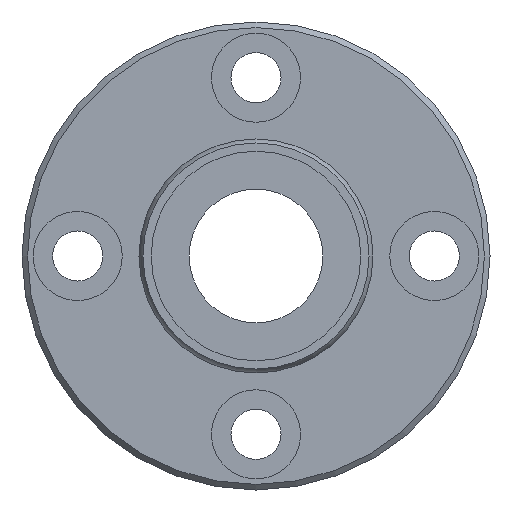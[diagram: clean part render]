
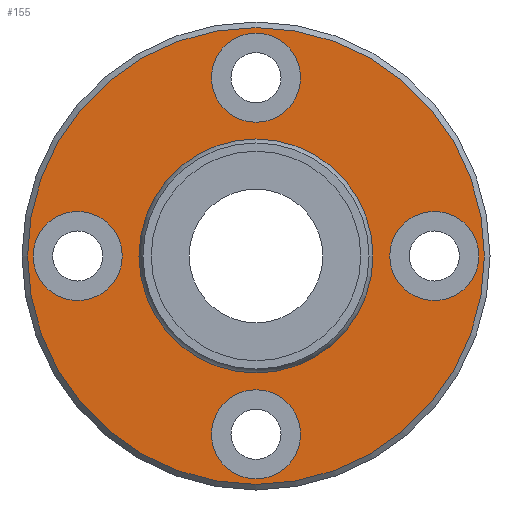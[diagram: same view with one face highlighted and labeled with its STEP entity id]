
A CAD part, left-side view. The second image highlights one B-rep face of the part: STEP entity #155.
In plain terms, the highlighted planar face has unit normal (-1, 0, 0).
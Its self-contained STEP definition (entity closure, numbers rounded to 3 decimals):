
#60=CARTESIAN_POINT('',(25.5,0.,20.5));
#61=VERTEX_POINT('',#60);
#62=CARTESIAN_POINT('',(25.5,0.0,0.0));
#63=DIRECTION('',(1.0,0.0,0.0));
#64=DIRECTION('',(0.0,0.0,-1.0));
#65=AXIS2_PLACEMENT_3D('',#62,#63,#64);
#66=CIRCLE('',#65,20.5);
#67=EDGE_CURVE('',#61,#61,#66,.T.);
#92=CARTESIAN_POINT('',(25.5,0.0,15.643));
#93=DIRECTION('',(-1.0,0.0,0.0));
#94=DIRECTION('',(0.0,0.0,1.0));
#95=AXIS2_PLACEMENT_3D('',#92,#93,#94);
#96=PLANE('',#95);
#97=ORIENTED_EDGE('',*,*,#67,.F.);
#98=EDGE_LOOP('',(#97));
#99=FACE_OUTER_BOUND('',#98,.T.);
#100=CARTESIAN_POINT('',(25.5,0.0,10.286));
#101=VERTEX_POINT('',#100);
#102=CARTESIAN_POINT('',(25.5,0.0,0.0));
#103=DIRECTION('',(-1.0,0.0,0.0));
#104=DIRECTION('',(0.0,0.0,1.0));
#105=AXIS2_PLACEMENT_3D('',#102,#103,#104);
#106=CIRCLE('',#105,10.286);
#107=EDGE_CURVE('',#101,#101,#106,.T.);
#108=ORIENTED_EDGE('',*,*,#107,.F.);
#109=EDGE_LOOP('',(#108));
#110=FACE_BOUND('',#109,.T.);
#111=CARTESIAN_POINT('',(25.5,-12.,0.));
#112=VERTEX_POINT('',#111);
#113=CARTESIAN_POINT('',(25.5,-16.0,0.));
#114=DIRECTION('',(1.0,0.0,0.0));
#115=DIRECTION('',(0.0,1.0,0.0));
#116=AXIS2_PLACEMENT_3D('',#113,#114,#115);
#117=CIRCLE('',#116,4.0);
#118=EDGE_CURVE('',#112,#112,#117,.T.);
#119=ORIENTED_EDGE('',*,*,#118,.T.);
#120=EDGE_LOOP('',(#119));
#121=FACE_BOUND('',#120,.T.);
#122=CARTESIAN_POINT('',(25.5,20.0,0.));
#123=VERTEX_POINT('',#122);
#124=CARTESIAN_POINT('',(25.5,16.0,0.));
#125=DIRECTION('',(1.0,0.0,0.0));
#126=DIRECTION('',(0.0,1.0,0.0));
#127=AXIS2_PLACEMENT_3D('',#124,#125,#126);
#128=CIRCLE('',#127,4.0);
#129=EDGE_CURVE('',#123,#123,#128,.T.);
#130=ORIENTED_EDGE('',*,*,#129,.T.);
#131=EDGE_LOOP('',(#130));
#132=FACE_BOUND('',#131,.T.);
#133=CARTESIAN_POINT('',(25.5,4.,16.0));
#134=VERTEX_POINT('',#133);
#135=CARTESIAN_POINT('',(25.5,0.,16.0));
#136=DIRECTION('',(1.0,0.0,0.0));
#137=DIRECTION('',(0.0,1.0,0.0));
#138=AXIS2_PLACEMENT_3D('',#135,#136,#137);
#139=CIRCLE('',#138,4.0);
#140=EDGE_CURVE('',#134,#134,#139,.T.);
#141=ORIENTED_EDGE('',*,*,#140,.T.);
#142=EDGE_LOOP('',(#141));
#143=FACE_BOUND('',#142,.T.);
#144=CARTESIAN_POINT('',(25.5,4.,-16.0));
#145=VERTEX_POINT('',#144);
#146=CARTESIAN_POINT('',(25.5,0.,-16.0));
#147=DIRECTION('',(1.0,0.0,0.0));
#148=DIRECTION('',(0.0,1.0,0.0));
#149=AXIS2_PLACEMENT_3D('',#146,#147,#148);
#150=CIRCLE('',#149,4.0);
#151=EDGE_CURVE('',#145,#145,#150,.T.);
#152=ORIENTED_EDGE('',*,*,#151,.T.);
#153=EDGE_LOOP('',(#152));
#154=FACE_BOUND('',#153,.T.);
#155=ADVANCED_FACE('',(#99,#110,#121,#132,#143,#154),#96,.T.);
